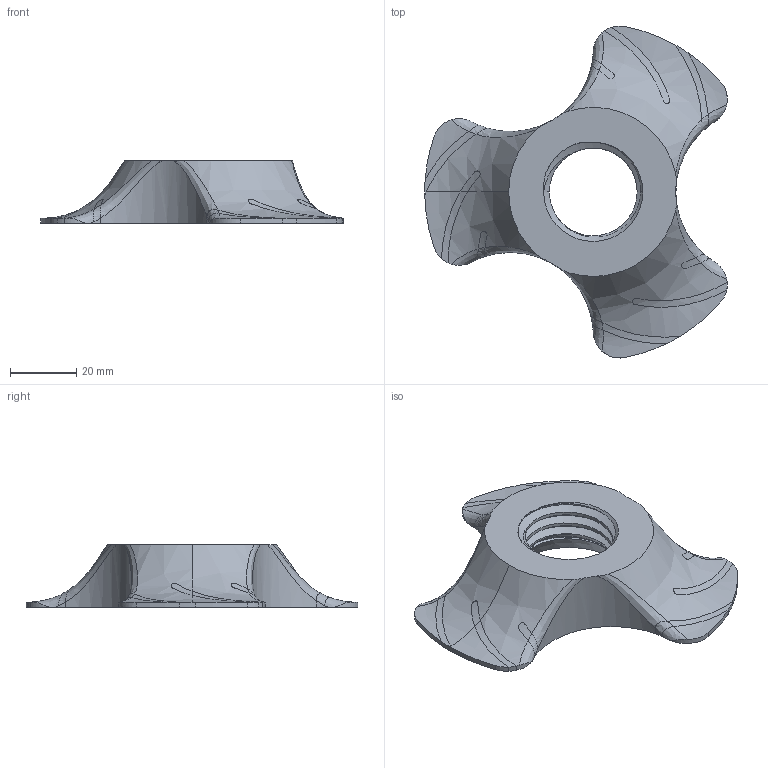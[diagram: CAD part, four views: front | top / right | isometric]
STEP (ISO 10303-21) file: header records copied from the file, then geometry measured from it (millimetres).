
FILE_DESCRIPTION (( 'STEP AP214' ), '1' );
FILE_NAME ('NutCurvedXL_v3.2.STEP', '2019-04-12T14:08:11', ( '' ), ( '' ), 'SwSTEP 2.0', 'SolidWorks 2018', '' );
FILE_SCHEMA (( 'AUTOMOTIVE_DESIGN' ));
Length unit declared in the file: millimetre
Products named in the file (1): NutCurvedXL_v3.2
Bounding box: 91.58 x 100.49 x 19 mm (x, y, z)
Volume: 45780.8 mm3; surface area: 16842.5 mm2
Topology: 10 solids, 10 shells, 234 faces, 599 edges, 391 vertices
Faces by surface type: cylinder 96, bspline 82, plane 50, cone 6
Entity records: 11432 total; most frequent: CARTESIAN_POINT 6282, ORIENTED_EDGE 1198, DIRECTION 768, EDGE_CURVE 599, VERTEX_POINT 391, AXIS2_PLACEMENT_3D 301, B_SPLINE_CURVE_WITH_KNOTS 272, EDGE_LOOP 260
